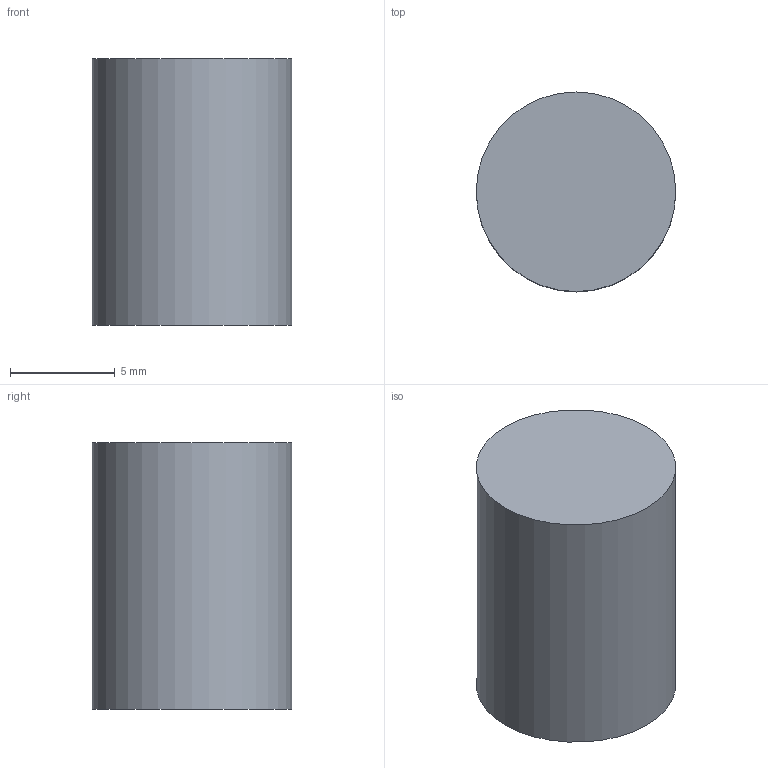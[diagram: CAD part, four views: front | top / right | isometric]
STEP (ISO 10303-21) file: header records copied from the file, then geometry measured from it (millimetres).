
FILE_DESCRIPTION(/* description */ (''),/* implementation_level */ '2;1');
FILE_NAME(/* name */ 'REF_D68_N52_gap15.step',/* time_stamp */ '2026-11-14T21:40:02-08:00',/* author */ (''),/* organization */ (''),/* preprocessor_version */ 'ST-DEVELOPER v20.2',/* originating_system */ 'Autodesk Translation Framework v15.17.0.0',/* authorisation */ '');
FILE_SCHEMA (('AUTOMOTIVE_DESIGN { 1 0 10303 214 3 1 1 }'));
Length unit declared in the file: millimetre
Products named in the file (1): 2026-11-14-21-40-02-466
Bounding box: 9.53 x 9.53 x 12.7 mm (x, y, z)
Volume: 904.9 mm3; surface area: 522.5 mm2
Topology: 1 solids, 1 shells, 3 faces, 3 edges, 2 vertices
Faces by surface type: plane 2, cylinder 1
Full cylindrical faces by diameter (mm): 9.525 x1
Entity records: 92 total; most frequent: DIRECTION 13, CARTESIAN_POINT 9, ORIENTED_EDGE 6, AXIS2_PLACEMENT_3D 6, FACE_OUTER_BOUND 3, EDGE_LOOP 3, EDGE_CURVE 3, ADVANCED_FACE 3
